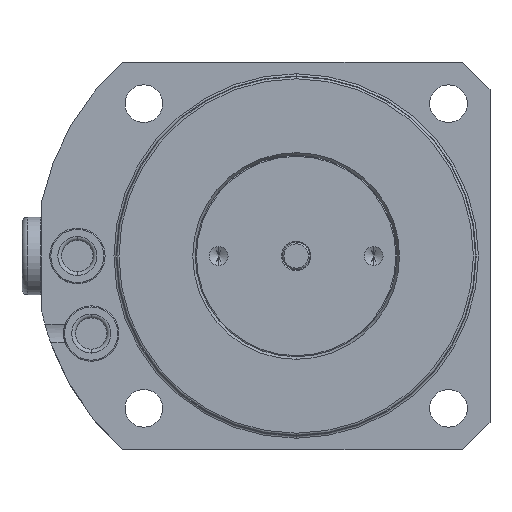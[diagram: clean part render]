
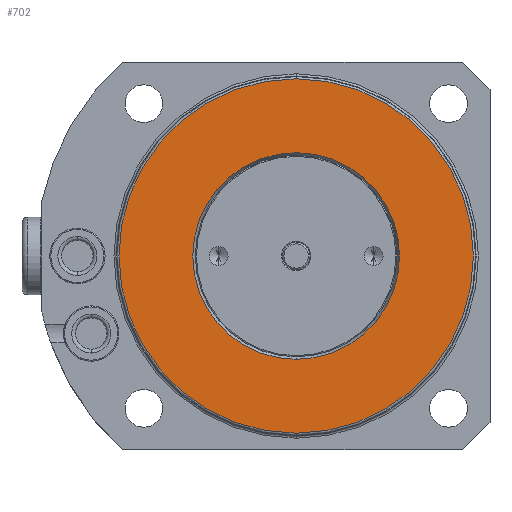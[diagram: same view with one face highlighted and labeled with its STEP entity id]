
A CAD part, front view. The second image highlights one B-rep face of the part: STEP entity #702.
In plain terms, the highlighted planar face has unit normal (0, -1, 0).
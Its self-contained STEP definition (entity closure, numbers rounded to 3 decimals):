
#388=PLANE('',#4169);
#449=FACE_BOUND('',#1238,.T.);
#450=FACE_BOUND('',#1239,.T.);
#702=ADVANCED_FACE('',(#449,#450),#388,.T.);
#1238=EDGE_LOOP('',(#2424,#2425));
#1239=EDGE_LOOP('',(#2426,#2427));
#2424=ORIENTED_EDGE('',*,*,#3328,.T.);
#2425=ORIENTED_EDGE('',*,*,#3401,.T.);
#2426=ORIENTED_EDGE('',*,*,#3400,.F.);
#2427=ORIENTED_EDGE('',*,*,#3332,.F.);
#2899=VERTEX_POINT('',#6606);
#2900=VERTEX_POINT('',#6608);
#2903=VERTEX_POINT('',#6615);
#2904=VERTEX_POINT('',#6617);
#3328=EDGE_CURVE('',#2900,#2899,#3662,.T.);
#3332=EDGE_CURVE('',#2903,#2904,#3665,.T.);
#3400=EDGE_CURVE('',#2904,#2903,#3697,.T.);
#3401=EDGE_CURVE('',#2899,#2900,#3698,.T.);
#3662=CIRCLE('',#4112,32.);
#3665=CIRCLE('',#4116,18.662);
#3697=CIRCLE('',#4166,18.662);
#3698=CIRCLE('',#4168,32.);
#4112=AXIS2_PLACEMENT_3D('',#6607,#5164,#5165);
#4116=AXIS2_PLACEMENT_3D('',#6616,#5173,#5174);
#4166=AXIS2_PLACEMENT_3D('',#6802,#5296,#5297);
#4168=AXIS2_PLACEMENT_3D('',#6804,#5300,#5301);
#4169=AXIS2_PLACEMENT_3D('',#6805,#5302,#5303);
#5164=DIRECTION('',(0.,-1.,0.));
#5165=DIRECTION('',(0.,0.,-1.));
#5173=DIRECTION('',(0.,-1.,0.));
#5174=DIRECTION('',(0.,0.,-1.));
#5296=DIRECTION('',(0.,-1.,0.));
#5297=DIRECTION('',(0.,0.,-1.));
#5300=DIRECTION('',(0.,-1.,0.));
#5301=DIRECTION('',(0.,0.,-1.));
#5302=DIRECTION('',(0.,-1.,0.));
#5303=DIRECTION('',(0.,0.,1.));
#6606=CARTESIAN_POINT('',(0.,1.705,32.));
#6607=CARTESIAN_POINT('',(0.,1.705,0.));
#6608=CARTESIAN_POINT('',(0.,1.705,-32.));
#6615=CARTESIAN_POINT('',(0.,1.705,18.662));
#6616=CARTESIAN_POINT('',(0.,1.705,0.));
#6617=CARTESIAN_POINT('',(0.,1.705,-18.662));
#6802=CARTESIAN_POINT('',(0.,1.705,0.));
#6804=CARTESIAN_POINT('',(0.,1.705,0.));
#6805=CARTESIAN_POINT('',(0.,1.705,0.));
